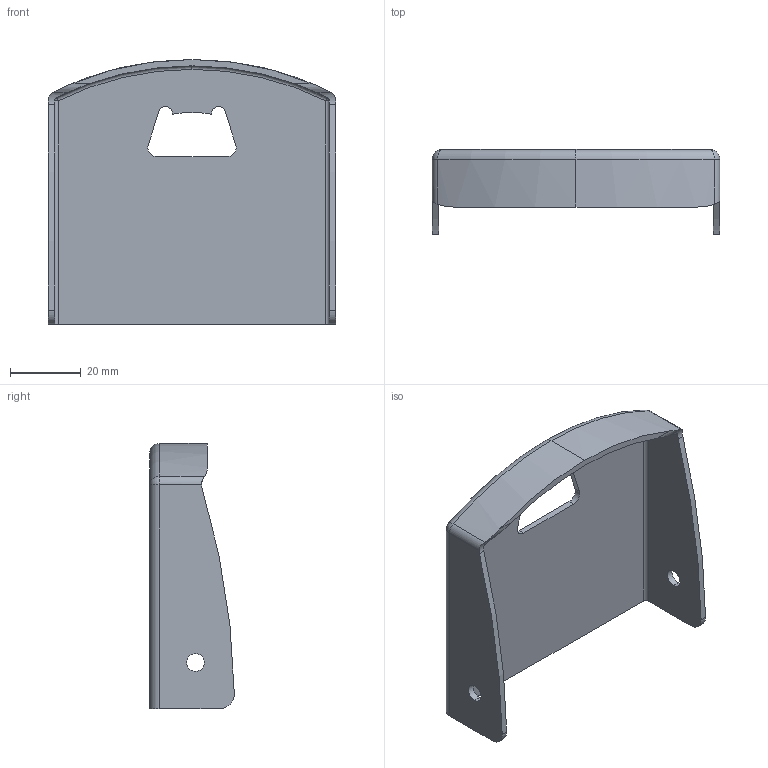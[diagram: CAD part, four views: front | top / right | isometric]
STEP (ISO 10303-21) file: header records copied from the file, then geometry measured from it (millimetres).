
FILE_DESCRIPTION (( 'STEP AP203' ), '1' );
FILE_NAME ('Appui fixe.STEP', '2026-03-31T07:28:57', ( '' ), ( '' ), 'SwSTEP 2.0', 'SolidWorks 2024', '' );
FILE_SCHEMA (( 'CONFIG_CONTROL_DESIGN' ));
Length unit declared in the file: millimetre
Products named in the file (1): Appui fixe
Bounding box: 81.4 x 23.96 x 75 mm (x, y, z)
Volume: 16123.6 mm3; surface area: 18707.8 mm2
Topology: 1 solids, 1 shells, 51 faces, 137 edges, 84 vertices
Faces by surface type: cylinder 32, plane 11, torus 4, sphere 4
Entity records: 1722 total; most frequent: CARTESIAN_POINT 345, DIRECTION 291, ORIENTED_EDGE 266, EDGE_CURVE 133, AXIS2_PLACEMENT_3D 118, VERTEX_POINT 84, CIRCLE 66, EDGE_LOOP 57
